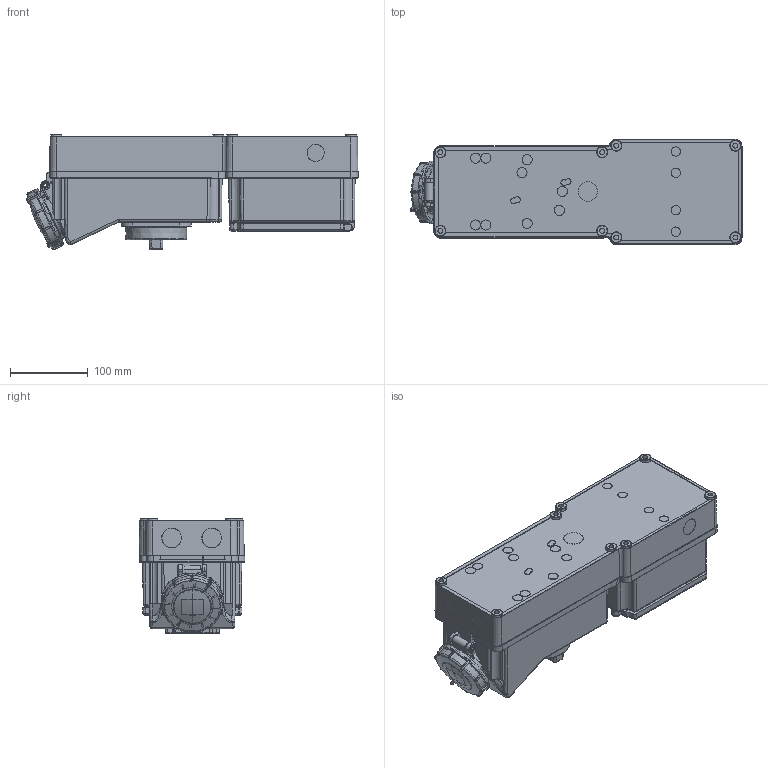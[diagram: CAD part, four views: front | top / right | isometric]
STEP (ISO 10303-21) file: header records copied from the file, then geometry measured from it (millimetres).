
FILE_DESCRIPTION (( 'STEP AP203' ), '1' );
FILE_NAME ('DIS5681683 (WSD 3p 16ﾀ 230ﾂ IP67).STEP', '2024-08-28T04:58:37', ( '' ), ( '' ), 'SwSTEP 2.0', 'SolidWorks 2022', '' );
FILE_SCHEMA (( 'CONFIG_CONTROL_DESIGN' ));
Length unit declared in the file: millimetre
Products named in the file (1): DIS5681683 (WSD 3p 16А 230В IP67)
Bounding box: 426.65 x 136 x 148.51 mm (x, y, z)
Volume: 5503371.2 mm3; surface area: 334988.9 mm2
Topology: 1 solids, 30 shells, 2232 faces, 5602 edges, 3445 vertices
Faces by surface type: cylinder 713, plane 560, torus 333, bspline 299, cone 198, sphere 129
Entity records: 78212 total; most frequent: CARTESIAN_POINT 27275, ORIENTED_EDGE 11066, DIRECTION 10495, EDGE_CURVE 5533, AXIS2_PLACEMENT_3D 4393, VERTEX_POINT 3430, CIRCLE 2461, EDGE_LOOP 2313
